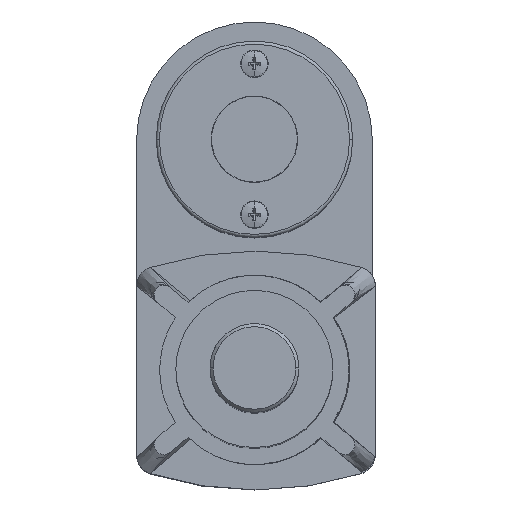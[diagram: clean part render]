
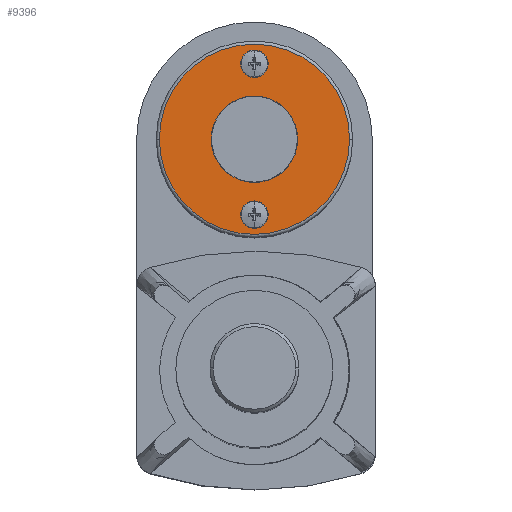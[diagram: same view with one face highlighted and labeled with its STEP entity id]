
A CAD part, top view. The second image highlights one B-rep face of the part: STEP entity #9396.
In plain terms, the highlighted planar face has unit normal (0, 0, 1).
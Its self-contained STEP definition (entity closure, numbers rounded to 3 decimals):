
#179 = CIRCLE ( 'NONE', #6975, 30.75 ) ;
#360 = AXIS2_PLACEMENT_3D ( 'NONE', #10250, #1306, #6969 ) ;
#456 = CARTESIAN_POINT ( 'NONE',  ( 7.858, -31.638, 406.098 ) ) ;
#556 = EDGE_LOOP ( 'NONE', ( #6789, #9908 ) ) ;
#586 = CARTESIAN_POINT ( 'NONE',  ( 38.608, -7.238, 406.098 ) ) ;
#677 = EDGE_LOOP ( 'NONE', ( #3738, #8724 ) ) ;
#841 = CARTESIAN_POINT ( 'NONE',  ( 38.608, -31.638, 406.098 ) ) ;
#1306 = DIRECTION ( 'NONE',  ( 0., 0., 1. ) ) ;
#1557 = AXIS2_PLACEMENT_3D ( 'NONE', #6086, #4236, #6895 ) ;
#1596 = CARTESIAN_POINT ( 'NONE',  ( 38.608, -31.638, 406.098 ) ) ;
#1631 = DIRECTION ( 'NONE',  ( 0., 0., 1. ) ) ;
#1771 = ORIENTED_EDGE ( 'NONE', *, *, #10432, .F. ) ;
#1794 = DIRECTION ( 'NONE',  ( -1., 0., 0. ) ) ;
#1961 = ORIENTED_EDGE ( 'NONE', *, *, #4058, .F. ) ;
#2061 = FACE_OUTER_BOUND ( 'NONE', #556, .T. ) ;
#2363 = DIRECTION ( 'NONE',  ( 0., 0., 1. ) ) ;
#2599 = EDGE_CURVE ( 'NONE', #7620, #9150, #8062, .T. ) ;
#2852 = CARTESIAN_POINT ( 'NONE',  ( 38.608, -31.638, 406.098 ) ) ;
#3021 = CARTESIAN_POINT ( 'NONE',  ( 41.148, -7.238, 406.098 ) ) ;
#3145 = DIRECTION ( 'NONE',  ( -1., 0., 0. ) ) ;
#3171 = PLANE ( 'NONE',  #10446 ) ;
#3495 = DIRECTION ( 'NONE',  ( 0., 0., 1. ) ) ;
#3528 = CARTESIAN_POINT ( 'NONE',  ( 36.068, -7.238, 406.098 ) ) ;
#3738 = ORIENTED_EDGE ( 'NONE', *, *, #4463, .F. ) ;
#3893 = CARTESIAN_POINT ( 'NONE',  ( 41.148, -56.038, 406.098 ) ) ;
#4058 = EDGE_CURVE ( 'NONE', #6337, #4629, #7390, .T. ) ;
#4189 = FACE_BOUND ( 'NONE', #677, .T. ) ;
#4236 = DIRECTION ( 'NONE',  ( 0., 0., 1. ) ) ;
#4463 = EDGE_CURVE ( 'NONE', #7707, #10087, #9772, .T. ) ;
#4629 = VERTEX_POINT ( 'NONE', #10329 ) ;
#5159 = EDGE_CURVE ( 'NONE', #10087, #7707, #8221, .T. ) ;
#5280 = DIRECTION ( 'NONE',  ( 0., 0., 1. ) ) ;
#5575 = CIRCLE ( 'NONE', #360, 2.54 ) ;
#5892 = AXIS2_PLACEMENT_3D ( 'NONE', #8365, #3495, #8438 ) ;
#6086 = CARTESIAN_POINT ( 'NONE',  ( 38.608, -56.038, 406.098 ) ) ;
#6337 = VERTEX_POINT ( 'NONE', #3893 ) ;
#6499 = DIRECTION ( 'NONE',  ( 0., 0., 1. ) ) ;
#6729 = EDGE_CURVE ( 'NONE', #9150, #7620, #179, .T. ) ;
#6789 = ORIENTED_EDGE ( 'NONE', *, *, #6729, .T. ) ;
#6895 = DIRECTION ( 'NONE',  ( -1., 0., 0. ) ) ;
#6969 = DIRECTION ( 'NONE',  ( -1., 0., 0. ) ) ;
#6975 = AXIS2_PLACEMENT_3D ( 'NONE', #2852, #5280, #10112 ) ;
#7248 = CARTESIAN_POINT ( 'NONE',  ( 69.358, -31.638, 406.098 ) ) ;
#7390 = CIRCLE ( 'NONE', #1557, 2.54 ) ;
#7620 = VERTEX_POINT ( 'NONE', #7248 ) ;
#7707 = VERTEX_POINT ( 'NONE', #3528 ) ;
#7937 = EDGE_LOOP ( 'NONE', ( #1771, #1961 ) ) ;
#8062 = CIRCLE ( 'NONE', #9545, 30.75 ) ;
#8221 = CIRCLE ( 'NONE', #10431, 2.54 ) ;
#8365 = CARTESIAN_POINT ( 'NONE',  ( 38.608, -7.238, 406.098 ) ) ;
#8438 = DIRECTION ( 'NONE',  ( -1., 0., 0. ) ) ;
#8724 = ORIENTED_EDGE ( 'NONE', *, *, #5159, .F. ) ;
#9150 = VERTEX_POINT ( 'NONE', #456 ) ;
#9307 = FACE_BOUND ( 'NONE', #7937, .T. ) ;
#9396 = ADVANCED_FACE ( 'NONE', ( #9307, #4189, #2061 ), #3171, .T. ) ;
#9545 = AXIS2_PLACEMENT_3D ( 'NONE', #1596, #6499, #3145 ) ;
#9693 = DIRECTION ( 'NONE',  ( -1., 0., 0. ) ) ;
#9772 = CIRCLE ( 'NONE', #5892, 2.54 ) ;
#9908 = ORIENTED_EDGE ( 'NONE', *, *, #2599, .T. ) ;
#10087 = VERTEX_POINT ( 'NONE', #3021 ) ;
#10112 = DIRECTION ( 'NONE',  ( -1., 0., 0. ) ) ;
#10250 = CARTESIAN_POINT ( 'NONE',  ( 38.608, -56.038, 406.098 ) ) ;
#10329 = CARTESIAN_POINT ( 'NONE',  ( 36.068, -56.038, 406.098 ) ) ;
#10431 = AXIS2_PLACEMENT_3D ( 'NONE', #586, #2363, #1794 ) ;
#10432 = EDGE_CURVE ( 'NONE', #4629, #6337, #5575, .T. ) ;
#10446 = AXIS2_PLACEMENT_3D ( 'NONE', #841, #1631, #9693 ) ;
